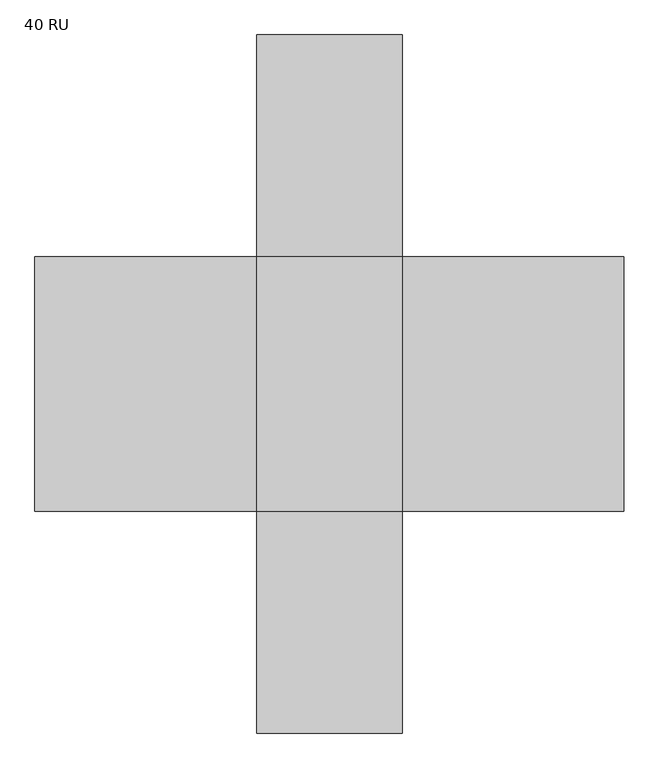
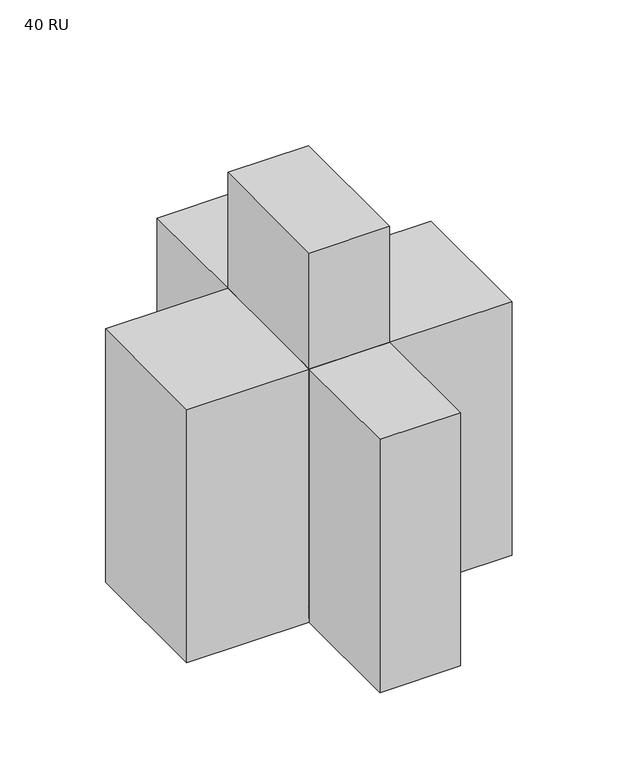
"""IFC4 building model written with IfcOpenShell, lengths in millimetres: electric appliance geometry, Cabinet-Server-Chatsworth-Seismicframe-Z4_Series : 40 RU."""

import ifcopenshell
import ifcopenshell.guid

model = None  # the IFC model being written
_history = None  # IfcOwnerHistory: only IFC2X3 demands one
_inside = {}  # id of a spatial element -> (the spatial element, [elements in it])
_under = {}  # id of a project, library or spatial element -> (it, [spatial elements below it])
_declared = {}  # id of a project -> (the project, [libraries it declares])
_typed = {}  # id of a type object -> (the type object, [elements of that type])
_made_of = {}  # id of a material, layer set ... -> (it, [elements and type objects made of it])


def new_model(schema):
    """Start an empty IFC model of exactly this schema.

    Asked for "IFC4X3", IfcOpenShell would pick the latest addendum, in which some entities
    have other attributes; the version numbers below select the first issue.
    IFC2X3 requires an IfcOwnerHistory on every rooted entity: one is made here for all.
    """
    global model, _history
    if schema == "IFC4X3":
        model = ifcopenshell.file(schema_version=(4, 3, 0, 0))
    else:
        model = ifcopenshell.file(schema=schema)
    _inside.clear()
    _under.clear()
    _declared.clear()
    _typed.clear()
    _made_of.clear()
    _history = None
    if model.schema == "IFC2X3":
        org = make("IfcOrganization", Name="unknown")
        user = make(
            "IfcPersonAndOrganization",
            ThePerson=make("IfcPerson", FamilyName="unknown"),
            TheOrganization=org,
        )
        app = make(
            "IfcApplication",
            ApplicationDeveloper=org,
            Version="unknown",
            ApplicationFullName="unknown",
            ApplicationIdentifier="unknown",
        )
        _history = make(
            "IfcOwnerHistory",
            OwningUser=user,
            OwningApplication=app,
            ChangeAction="ADDED",
            CreationDate=0,
        )
    return model


def make(cls, **values):
    """One entity of the class cls with the attributes given. An attribute that is None is left unset."""
    return model.create_entity(
        cls, **{name: value for name, value in values.items() if value is not None}
    )


def rooted(cls, **values):
    """An entity with a GlobalId (a new one), such as an element, a storey or a relation."""
    return make(cls, GlobalId=ifcopenshell.guid.new(), OwnerHistory=_history, **values)


def si_unit(unit_type, name, prefix=None):
    """IfcSIUnit, for example si_unit("LENGTHUNIT", "METRE", prefix="MILLI")."""
    return make("IfcSIUnit", UnitType=unit_type, Prefix=prefix, Name=name)


def assignment(units):
    """IfcUnitAssignment: the units of a project."""
    return None if units is None else make("IfcUnitAssignment", Units=units)


def point(xyz):
    """IfcCartesianPoint."""
    return None if xyz is None else make("IfcCartesianPoint", Coordinates=xyz)


def direction(xyz):
    """IfcDirection."""
    return None if xyz is None else make("IfcDirection", DirectionRatios=xyz)


def frame(location, z_axis=None, x_axis=None):
    """IfcAxis2Placement3D, a coordinate frame: its origin and axes. An axis left out is left unset."""
    return make(
        "IfcAxis2Placement3D",
        Location=point(location),
        Axis=direction(z_axis),
        RefDirection=direction(x_axis),
    )


def origin():
    """The frame at (0, 0, 0) with its axes left unset."""
    return frame((0.0, 0.0, 0.0))


def origin_with_axes():
    """The frame at (0, 0, 0) with the z axis (0, 0, 1) and the x axis (1, 0, 0) written out."""
    return frame((0.0, 0.0, 0.0), z_axis=(0.0, 0.0, 1.0), x_axis=(1.0, 0.0, 0.0))


def place(relative_to, where):
    """IfcLocalPlacement: puts the frame where relative to a parent placement (None: the world)."""
    return make(
        "IfcLocalPlacement", PlacementRelTo=relative_to, RelativePlacement=where
    )


def context(
    kind, dimensions, precision=None, world=None, true_north=None, identifier=None
):
    """IfcGeometricRepresentationContext, for example the 3D "Model" context."""
    return make(
        "IfcGeometricRepresentationContext",
        ContextIdentifier=identifier,
        ContextType=kind,
        CoordinateSpaceDimension=dimensions,
        Precision=precision,
        WorldCoordinateSystem=world,
        TrueNorth=true_north,
    )


def project(units=None, contexts=None):
    """IfcProject with its units and contexts."""
    return rooted(
        "IfcProject",
        Name="project",
        RepresentationContexts=contexts,
        UnitsInContext=assignment(units),
    )


def spatial(cls, under=None, at=None, **own):
    """A site, building, storey or space (cls), placed at a placement, below another one or the project."""
    s = rooted(cls, ObjectPlacement=at, **own)
    if under is not None:
        _under.setdefault(under.id(), (under, []))[1].append(s)
    return s


def polyline(points):
    """IfcPolyline through the points."""
    return make("IfcPolyline", Points=[point(p) for p in points])


def circle_curve(where, radius):
    """IfcCircle in the frame where."""
    return make("IfcCircle", Position=where, Radius=radius)


def outline(outer, holes=None, kind="AREA"):
    """IfcArbitraryClosedProfileDef: a profile drawn as a closed curve; with holes, ...WithVoids."""
    if holes is None:
        return make("IfcArbitraryClosedProfileDef", ProfileType=kind, OuterCurve=outer)
    return make(
        "IfcArbitraryProfileDefWithVoids",
        ProfileType=kind,
        OuterCurve=outer,
        InnerCurves=holes,
    )


def extrude(swept, where, along, depth):
    """IfcExtrudedAreaSolid: the profile swept, set in the frame where, extruded along a direction by depth."""
    return make(
        "IfcExtrudedAreaSolid",
        SweptArea=swept,
        Position=where,
        ExtrudedDirection=direction(along),
        Depth=depth,
    )


def shape(context_of_items, identifier, shape_type, items):
    """IfcShapeRepresentation: the items that make up one representation, for example the "Body"."""
    return make(
        "IfcShapeRepresentation",
        ContextOfItems=context_of_items,
        RepresentationIdentifier=identifier,
        RepresentationType=shape_type,
        Items=items,
    )


def source(mapping_origin, context_of_items, identifier, shape_type, items):
    """IfcRepresentationMap: a shape defined once, which mapped items show again and again."""
    return make(
        "IfcRepresentationMap",
        MappingOrigin=mapping_origin,
        MappedRepresentation=shape(context_of_items, identifier, shape_type, items),
    )


def transform(
    local_origin,
    x_axis=None,
    y_axis=None,
    z_axis=None,
    scale=None,
    scale2=None,
    scale3=None,
    uniform=True,
):
    """IfcCartesianTransformationOperator3D, or its non-uniform kind. x_axis, y_axis, z_axis: its Axis1, 2, 3."""
    if uniform:
        return make(
            "IfcCartesianTransformationOperator3D",
            Axis1=direction(x_axis),
            Axis2=direction(y_axis),
            LocalOrigin=point(local_origin),
            Scale=scale,
            Axis3=direction(z_axis),
        )
    return make(
        "IfcCartesianTransformationOperator3DnonUniform",
        Axis1=direction(x_axis),
        Axis2=direction(y_axis),
        LocalOrigin=point(local_origin),
        Scale=scale,
        Axis3=direction(z_axis),
        Scale2=scale2,
        Scale3=scale3,
    )


def mapped(mapping_source, mapping_target):
    """IfcMappedItem: shows the shape of a source again, moved by a transform."""
    return make(
        "IfcMappedItem", MappingSource=mapping_source, MappingTarget=mapping_target
    )


def made_of(thing, what):
    """Note that an element or type object is made of a material, layer set ...; save() writes the relation."""
    if what is not None:
        _made_of.setdefault(what.id(), (what, []))[1].append(thing)
    return thing


def element(
    cls,
    number,
    at=None,
    inside=None,
    cuts=None,
    type_object=None,
    material=None,
    context=None,
    identifier="Body",
    shape_type=None,
    held_by="IfcProductDefinitionShape",
    body=None,
    shapes=None,
    **own,
):
    """One element of the class cls, such as IfcWall. Its Tag is "e" and its number.

    at: its placement. inside: the storey or other place that contains it. cuts: it is an
    opening in that element (IfcRelVoidsElement). A single representation is given by context,
    identifier, shape_type and body (its items); several are given by shapes. held_by: the class
    of the entity that holds the representations. save() writes the other relations.
    """
    e = rooted(cls, Tag="e%d" % number, ObjectPlacement=at, **own)
    if body is not None:
        shapes = [shape(context, identifier, shape_type, body)]
    if shapes is not None:
        e.Representation = make(held_by, Representations=shapes)
    if inside is not None:
        _inside.setdefault(inside.id(), (inside, []))[1].append(e)
    if cuts is not None:
        rooted(
            "IfcRelVoidsElement", RelatingBuildingElement=cuts, RelatedOpeningElement=e
        )
    if type_object is not None:
        _typed.setdefault(type_object.id(), (type_object, []))[1].append(e)
    return made_of(e, material)


def aggregate(whole, parts):
    """IfcRelAggregates: a whole, such as a stair, and the parts it consists of."""
    return rooted("IfcRelAggregates", RelatingObject=whole, RelatedObjects=parts)


def save(model, path):
    """Write the relations noted so far, then the file.

    IfcRelAggregates (storeys below a building ...), IfcRelContainedInSpatialStructure (elements
    in a storey), IfcRelDefinesByType, IfcRelAssociatesMaterial and IfcRelDeclares: one each for
    every whole, place, type object, material and project.
    """
    for whole, parts in _under.values():
        aggregate(whole, parts)
    for where, things in _inside.values():
        rooted(
            "IfcRelContainedInSpatialStructure",
            RelatedElements=things,
            RelatingStructure=where,
        )
    for kind, things in _typed.values():
        rooted("IfcRelDefinesByType", RelatedObjects=things, RelatingType=kind)
    for what, things in _made_of.values():
        rooted("IfcRelAssociatesMaterial", RelatedObjects=things, RelatingMaterial=what)
    for by, libraries in _declared.values():
        rooted("IfcRelDeclares", RelatingContext=by, RelatedDefinitions=libraries)
    model.write(path)


def plane_surface(at):
    """IfcPlane: the flat surface through the origin of the frame at, square to its z axis."""
    return make("IfcPlane", Position=at)


def cylinder_surface(at, radius):
    """IfcCylindricalSurface: all points at the distance radius from the z axis of the frame at."""
    return make("IfcCylindricalSurface", Position=at, Radius=radius)


def advanced_brep(points, edges, surfaces, faces):
    """IfcAdvancedBrep: a solid bounded by faces that lie on surfaces and meet in shared edges.

    An edge is (start, end): straight between two places in points (the first is 0);
    or (start, end, curve); or (start, end, curve, False) where it runs against its curve.
    A face is (place in surfaces, loops), or (place, loops, False) where it looks against
    its surface's normal. A loop lists edges by number (the first is 1), with a minus sign
    where the edge is run from its end to its start. The first loop is the outer one.
    """
    corners = [point(p) for p in points]
    vertices = [make("IfcVertexPoint", VertexGeometry=c) for c in corners]
    made = []
    for start, end, *more in edges:
        made.append(
            make(
                "IfcEdgeCurve",
                EdgeStart=vertices[start],
                EdgeEnd=vertices[end],
                EdgeGeometry=more[0] if more else make("IfcPolyline", Points=[corners[start], corners[end]]),
                SameSense=more[1] if len(more) > 1 else True,
            )
        )
    hull = []
    for where, loops, *sense in faces:
        bounds = []
        for j, loop in enumerate(loops):
            ring = [make("IfcOrientedEdge", EdgeElement=made[abs(k) - 1], Orientation=k > 0) for k in loop]
            bounds.append(
                make(
                    "IfcFaceOuterBound" if j == 0 else "IfcFaceBound",
                    Bound=make("IfcEdgeLoop", EdgeList=ring),
                    Orientation=True,
                )
            )
        hull.append(make("IfcAdvancedFace", Bounds=bounds, FaceSurface=surfaces[where], SameSense=sense[0] if sense else True))
    return make("IfcAdvancedBrep", Outer=make("IfcClosedShell", CfsFaces=hull))


def electric_appliance_40_ru_fa5b6344(model_context):
    return source(origin(), model_context, "Body", "SolidModel", [
        extrude(outline(polyline([(-155.2194, -423.4053), (-241.5794, -423.4053), (-241.5794, -314.1853), (-155.2194, -314.1853), (-155.2194, -423.4053)])), frame((0.0, 0.0, 32.5), z_axis=(0.0, 0.0, 1.0), x_axis=(1.0, 0.0, 0.0)), (0.0, 0.0, 1.0), 76.2),
        extrude(outline(polyline([(-155.2194, 423.4053), (-155.2194, 314.1853), (-241.5794, 314.1853), (-241.5794, 423.4053), (-155.2194, 423.4053)])), frame((0.0, 0.0, 32.5), z_axis=(0.0, 0.0, 1.0), x_axis=(1.0, 0.0, 0.0)), (0.0, 0.0, 1.0), 76.2),
        extrude(outline(polyline([(155.2194, 423.4053), (241.5794, 423.4053), (241.5794, 314.1853), (155.2194, 314.1853), (155.2194, 423.4053)])), frame((0.0, 0.0, 32.5), z_axis=(0.0, 0.0, 1.0), x_axis=(1.0, 0.0, 0.0)), (0.0, 0.0, 1.0), 76.2),
        extrude(outline(polyline([(155.2194, -423.4053), (155.2194, -314.1853), (241.5794, -314.1853), (241.5794, -423.4053), (155.2194, -423.4053)])), frame((0.0, 0.0, 32.5), z_axis=(0.0, 0.0, 1.0), x_axis=(1.0, 0.0, 0.0)), (0.0, 0.0, 1.0), 76.2),
        extrude(outline(polyline([(1997.825, 299.9994), (1997.825, -299.9994), (32.5, -299.9994), (32.5, 299.9994), (1997.825, 299.9994)]), holes=[polyline([(1921.625, 249.1994), (108.7, 249.1994), (108.7, -249.1994), (1921.625, -249.1994), (1921.625, 249.1994)])]), frame((0.0, 423.4053, 0.0), z_axis=(0.0, 1.0, 0.0), x_axis=(0.0, 0.0, 1.0)), (0.0, 0.0, 1.0), 101.6),
        extrude(outline(polyline([(1997.825, 299.9994), (1997.825, -299.9994), (32.5, -299.9994), (32.5, 299.9994), (1997.825, 299.9994)]), holes=[polyline([(1921.625, 249.1994), (108.7, 249.1994), (108.7, -249.1994), (1921.625, -249.1994), (1921.625, 249.1994)])]), frame((0.0, -525.0053, 0.0), z_axis=(0.0, 1.0, 0.0), x_axis=(0.0, 0.0, 1.0)), (0.0, 0.0, 1.0), 101.6),
        extrude(outline(polyline([(-276.6494, -423.4053), (-296.6494, -423.4053), (-296.6494, 423.4053), (-276.6494, 423.4053), (-276.6494, -423.4053)])), frame((0.0, 0.0, 32.5), z_axis=(0.0, 0.0, 1.0), x_axis=(1.0, 0.0, 0.0)), (0.0, 0.0, 1.0), 137.5),
        extrude(outline(polyline([(296.6494, -423.4053), (276.6494, -423.4053), (276.6494, 423.4053), (296.6494, 423.4053), (296.6494, -423.4053)])), frame((0.0, 0.0, 32.5), z_axis=(0.0, 0.0, 1.0), x_axis=(1.0, 0.0, 0.0)), (0.0, 0.0, 1.0), 137.5),
        extrude(outline(polyline([(296.6494, -423.4053), (276.6494, -423.4053), (276.6494, 423.4053), (296.6494, 423.4053), (296.6494, -423.4053)])), frame((0.0, 0.0, 1860.325), z_axis=(0.0, 0.0, 1.0), x_axis=(1.0, 0.0, 0.0)), (0.0, 0.0, 1.0), 137.5),
        extrude(outline(polyline([(-276.6494, -423.4053), (-296.6494, -423.4053), (-296.6494, 423.4053), (-276.6494, 423.4053), (-276.6494, -423.4053)])), frame((0.0, 0.0, 1860.325), z_axis=(0.0, 0.0, 1.0), x_axis=(1.0, 0.0, 0.0)), (0.0, 0.0, 1.0), 137.5),
        extrude(outline(polyline([(-276.6494, -423.4053), (-296.6494, -423.4053), (-296.6494, 423.4053), (-276.6494, 423.4053), (-276.6494, -423.4053)])), frame((0.0, 0.0, 945.3125), z_axis=(0.0, 0.0, 1.0), x_axis=(1.0, 0.0, 0.0)), (0.0, 0.0, 1.0), 139.7),
        extrude(outline(polyline([(296.6494, -423.4053), (276.6494, -423.4053), (276.6494, 423.4053), (296.6494, 423.4053), (296.6494, -423.4053)])), frame((0.0, 0.0, 945.3125), z_axis=(0.0, 0.0, 1.0), x_axis=(1.0, 0.0, 0.0)), (0.0, 0.0, 1.0), 139.7),
        advanced_brep(
        [(177.7619, 368.7953, 16.25), (177.7619, 368.7953, 0.0), (177.7619, 368.7953, 32.5), (219.0369, 368.7953, 0.0), (219.0369, 368.7953, 32.5), (219.0369, 368.7953, 16.25)],
        [
            (0, 1),
            (1, 2, circle_curve(frame((177.7619, 368.7953, 16.25), z_axis=(-1.0, 0.0, 0.0), x_axis=(0.0, 0.0, -1.0)), 16.25)),
            (2, 0),
            (2, 1, circle_curve(frame((177.7619, 368.7953, 16.25), z_axis=(-1.0, 0.0, 0.0), x_axis=(0.0, 0.0, -1.0)), 16.25)),
            (1, 3),
            (3, 4, circle_curve(frame((219.0369, 368.7953, 16.25), z_axis=(-1.0, 0.0, 0.0), x_axis=(0.0, 0.0, -1.0)), 16.25)),
            (4, 2),
            (4, 3, circle_curve(frame((219.0369, 368.7953, 16.25), z_axis=(-1.0, 0.0, 0.0), x_axis=(0.0, 0.0, -1.0)), 16.25)),
            (3, 5),
            (5, 4),
        ],
        [
            plane_surface(frame((177.7619, 368.7953, 16.25), z_axis=(-1.0, 0.0, 0.0), x_axis=(0.0, 0.0, -1.0))),
            cylinder_surface(frame((-1210.2260115, 368.7953, 16.25), z_axis=(-1.0, 0.0, 0.0), x_axis=(0.0, 0.0, -1.0)), 16.25),
            plane_surface(frame((219.0369, 368.7953, 16.25), z_axis=(1.0, 0.0, 0.0), x_axis=(0.0, 0.0, -1.0))),
        ],
        [
            (0, [[1, 2, 3]]),
            (0, [[-3, 4, -1]]),
            (1, [[-2, 5, 6, 7]]),
            (1, [[-4, -7, 8, -5]]),
            (2, [[-6, 9, 10]]),
            (2, [[-8, -10, -9]]),
        ],
    ),
        advanced_brep(
        [(-219.0369, 368.7953, 16.25), (-219.0369, 368.7953, 0.0), (-219.0369, 368.7953, 32.5), (-177.7619, 368.7953, 0.0), (-177.7619, 368.7953, 32.5), (-177.7619, 368.7953, 16.25)],
        [
            (0, 1),
            (1, 2, circle_curve(frame((-219.0369, 368.7953, 16.25), z_axis=(-1.0, 0.0, 0.0), x_axis=(0.0, 0.0, -1.0)), 16.25)),
            (2, 0),
            (2, 1, circle_curve(frame((-219.0369, 368.7953, 16.25), z_axis=(-1.0, 0.0, 0.0), x_axis=(0.0, 0.0, -1.0)), 16.25)),
            (1, 3),
            (3, 4, circle_curve(frame((-177.7619, 368.7953, 16.25), z_axis=(-1.0, 0.0, 0.0), x_axis=(0.0, 0.0, -1.0)), 16.25)),
            (4, 2),
            (4, 3, circle_curve(frame((-177.7619, 368.7953, 16.25), z_axis=(-1.0, 0.0, 0.0), x_axis=(0.0, 0.0, -1.0)), 16.25)),
            (3, 5),
            (5, 4),
        ],
        [
            plane_surface(frame((-219.0369, 368.7953, 16.25), z_axis=(-1.0, 0.0, 0.0), x_axis=(0.0, 0.0, -1.0))),
            cylinder_surface(frame((-1210.2260115, 368.7953, 16.25), z_axis=(-1.0, 0.0, 0.0), x_axis=(0.0, 0.0, -1.0)), 16.25),
            plane_surface(frame((-177.7619, 368.7953, 16.25), z_axis=(1.0, 0.0, 0.0), x_axis=(0.0, 0.0, -1.0))),
        ],
        [
            (0, [[1, 2, 3]]),
            (0, [[-3, 4, -1]]),
            (1, [[-2, 5, 6, 7]]),
            (1, [[-4, -7, 8, -5]]),
            (2, [[-6, 9, 10]]),
            (2, [[-8, -10, -9]]),
        ],
    ),
        advanced_brep(
        [(177.7619, -368.7953, 16.25), (177.7619, -368.7953, 0.0), (177.7619, -368.7953, 32.5), (219.0369, -368.7953, 0.0), (219.0369, -368.7953, 32.5), (219.0369, -368.7953, 16.25)],
        [
            (0, 1),
            (1, 2, circle_curve(frame((177.7619, -368.7953, 16.25), z_axis=(-1.0, 0.0, 0.0), x_axis=(0.0, 0.0, -1.0)), 16.25)),
            (2, 0),
            (2, 1, circle_curve(frame((177.7619, -368.7953, 16.25), z_axis=(-1.0, 0.0, 0.0), x_axis=(0.0, 0.0, -1.0)), 16.25)),
            (1, 3),
            (3, 4, circle_curve(frame((219.0369, -368.7953, 16.25), z_axis=(-1.0, 0.0, 0.0), x_axis=(0.0, 0.0, -1.0)), 16.25)),
            (4, 2),
            (4, 3, circle_curve(frame((219.0369, -368.7953, 16.25), z_axis=(-1.0, 0.0, 0.0), x_axis=(0.0, 0.0, -1.0)), 16.25)),
            (3, 5),
            (5, 4),
        ],
        [
            plane_surface(frame((177.7619, -368.7953, 16.25), z_axis=(-1.0, 0.0, 0.0), x_axis=(0.0, 0.0, -1.0))),
            cylinder_surface(frame((-1210.2260115, -368.7953, 16.25), z_axis=(-1.0, 0.0, 0.0), x_axis=(0.0, 0.0, -1.0)), 16.25),
            plane_surface(frame((219.0369, -368.7953, 16.25), z_axis=(1.0, 0.0, 0.0), x_axis=(0.0, 0.0, -1.0))),
        ],
        [
            (0, [[1, 2, 3]]),
            (0, [[-3, 4, -1]]),
            (1, [[-2, 5, 6, 7]]),
            (1, [[-4, -7, 8, -5]]),
            (2, [[-6, 9, 10]]),
            (2, [[-8, -10, -9]]),
        ],
    ),
        advanced_brep(
        [(-219.0369, -368.7953, 16.25), (-219.0369, -368.7953, 0.0), (-219.0369, -368.7953, 32.5), (-177.7619, -368.7953, 0.0), (-177.7619, -368.7953, 32.5), (-177.7619, -368.7953, 16.25)],
        [
            (0, 1),
            (1, 2, circle_curve(frame((-219.0369, -368.7953, 16.25), z_axis=(-1.0, 0.0, 0.0), x_axis=(0.0, 0.0, -1.0)), 16.25)),
            (2, 0),
            (2, 1, circle_curve(frame((-219.0369, -368.7953, 16.25), z_axis=(-1.0, 0.0, 0.0), x_axis=(0.0, 0.0, -1.0)), 16.25)),
            (1, 3),
            (3, 4, circle_curve(frame((-177.7619, -368.7953, 16.25), z_axis=(-1.0, 0.0, 0.0), x_axis=(0.0, 0.0, -1.0)), 16.25)),
            (4, 2),
            (4, 3, circle_curve(frame((-177.7619, -368.7953, 16.25), z_axis=(-1.0, 0.0, 0.0), x_axis=(0.0, 0.0, -1.0)), 16.25)),
            (3, 5),
            (5, 4),
        ],
        [
            plane_surface(frame((-219.0369, -368.7953, 16.25), z_axis=(-1.0, 0.0, 0.0), x_axis=(0.0, 0.0, -1.0))),
            cylinder_surface(frame((-1210.2260115, -368.7953, 16.25), z_axis=(-1.0, 0.0, 0.0), x_axis=(0.0, 0.0, -1.0)), 16.25),
            plane_surface(frame((-177.7619, -368.7953, 16.25), z_axis=(1.0, 0.0, 0.0), x_axis=(0.0, 0.0, -1.0))),
        ],
        [
            (0, [[1, 2, 3]]),
            (0, [[-3, 4, -1]]),
            (1, [[-2, 5, 6, 7]]),
            (1, [[-4, -7, 8, -5]]),
            (2, [[-6, 9, 10]]),
            (2, [[-8, -10, -9]]),
        ],
    ),
        extrude(outline(polyline([(-222.25, -196.8197), (-222.25, -199.9947), (-276.6494, -199.9947), (-276.6494, -111.0947), (-273.4744, -111.0947), (-273.4744, -196.8197), (-222.25, -196.8197)])), frame((0.0, 0.0, 108.7), z_axis=(0.0, 0.0, 1.0), x_axis=(1.0, 0.0, 0.0)), (0.0, 0.0, 1.0), 1812.925),
        extrude(outline(polyline([(-222.25, 173.8197), (-273.4744, 173.8197), (-273.4744, 88.0947), (-276.6494, 88.0947), (-276.6494, 176.9947), (-222.25, 176.9947), (-222.25, 173.8197)])), frame((0.0, 0.0, 108.7), z_axis=(0.0, 0.0, 1.0), x_axis=(1.0, 0.0, 0.0)), (0.0, 0.0, 1.0), 1812.925),
        extrude(outline(polyline([(222.25, -196.8197), (273.4744, -196.8197), (273.4744, -111.0947), (276.6494, -111.0947), (276.6494, -199.9947), (222.25, -199.9947), (222.25, -196.8197)])), frame((0.0, 0.0, 108.7), z_axis=(0.0, 0.0, 1.0), x_axis=(1.0, 0.0, 0.0)), (0.0, 0.0, 1.0), 1812.925),
        extrude(outline(polyline([(222.25, 173.8197), (222.25, 176.9947), (276.6494, 176.9947), (276.6494, 88.0947), (273.4744, 88.0947), (273.4744, 173.8197), (222.25, 173.8197)])), frame((0.0, 0.0, 108.7), z_axis=(0.0, 0.0, 1.0), x_axis=(1.0, 0.0, 0.0)), (0.0, 0.0, 1.0), 1812.925),
        extrude(outline(polyline([(222.25, -196.8197), (222.25, -199.9947), (-222.25, -199.9947), (-222.25, -196.8197), (222.25, -196.8197)])), frame((0.0, 0.0, 108.7), z_axis=(0.0, 0.0, 1.0), x_axis=(1.0, 0.0, 0.0)), (0.0, 0.0, 1.0), 1812.925),
        extrude(outline(polyline([(222.25, 176.9947), (222.25, 173.8197), (-222.25, 173.8197), (-222.25, 176.9947), (222.25, 176.9947)])), frame((0.0, 0.0, 108.7), z_axis=(0.0, 0.0, 1.0), x_axis=(1.0, 0.0, 0.0)), (0.0, 0.0, 1.0), 1812.925),
        extrude(outline(polyline([(299.9994, 525.0053), (299.9994, -525.0053), (-299.9994, -525.0053), (-299.9994, 525.0053), (299.9994, 525.0053)])), frame((0.0, 0.0, 1997.825), z_axis=(0.0, 0.0, 1.0), x_axis=(1.0, 0.0, 0.0)), (0.0, 0.0, 1.0), 914.4),
        extrude(outline(polyline([(299.9994, -1439.4053), (-299.9994, -1439.4053), (-299.9994, -525.0053), (299.9994, -525.0053), (299.9994, -1439.4053)])), origin_with_axes(), (0.0, 0.0, 1.0), 1997.825),
        extrude(outline(polyline([(299.9994, 1439.4053), (299.9994, 525.0053), (-299.9994, 525.0053), (-299.9994, 1439.4053), (299.9994, 1439.4053)])), origin_with_axes(), (0.0, 0.0, 1.0), 1997.825),
        extrude(outline(polyline([(1214.3994, 525.0053), (1214.3994, -525.0053), (299.9994, -525.0053), (299.9994, 525.0053), (1214.3994, 525.0053)])), origin_with_axes(), (0.0, 0.0, 1.0), 1997.825),
        extrude(outline(polyline([(-299.9994, -525.0053), (-1214.3994, -525.0053), (-1214.3994, 525.0053), (-299.9994, 525.0053), (-299.9994, -525.0053)])), origin_with_axes(), (0.0, 0.0, 1.0), 1997.825),
    ])


if __name__ == "__main__":
    model = new_model("IFC4")
    model_context = context("Model", 3, world=origin())
    ifc_project = project(units=[si_unit("LENGTHUNIT", "METRE", prefix="MILLI")], contexts=[model_context])
    site = spatial("IfcSite", under=ifc_project)
    building = spatial("IfcBuilding", under=site)
    placement = place(None, origin())
    electric_appliance_40_ru_shape = electric_appliance_40_ru_fa5b6344(model_context)
    element("IfcElectricAppliance", 1, ObjectType="Cabinet-Server-Chatsworth-Seismicframe-Z4_Series : 40 RU", at=placement, inside=building, context=model_context, shape_type="MappedRepresentation", body=[
        mapped(electric_appliance_40_ru_shape, transform((0.0, 0.0, 0.0), x_axis=(1.0, 0.0, 0.0), y_axis=(0.0, 1.0, 0.0), z_axis=(0.0, 0.0, 1.0))),
    ])
    save(model, "model.ifc")
